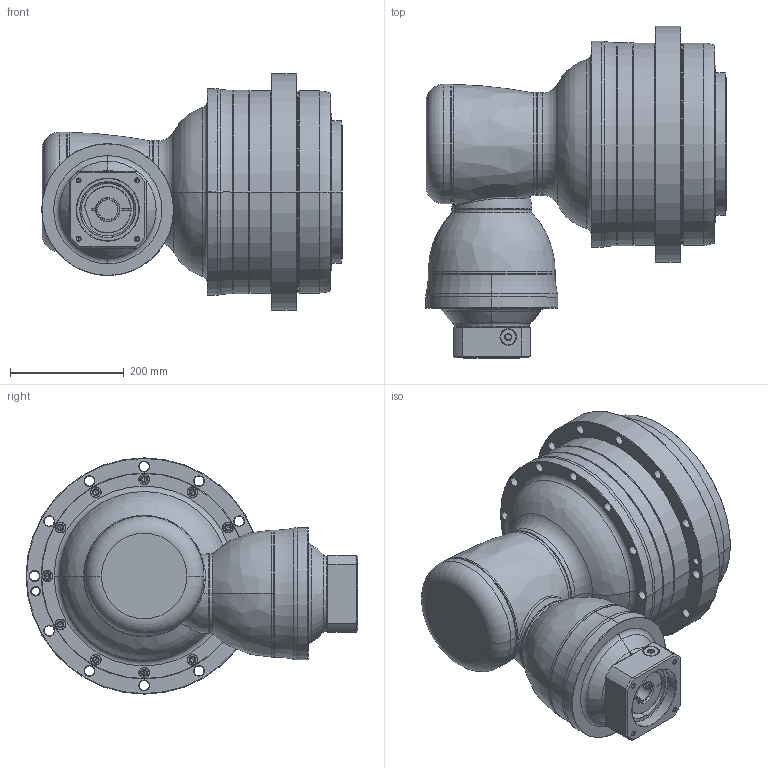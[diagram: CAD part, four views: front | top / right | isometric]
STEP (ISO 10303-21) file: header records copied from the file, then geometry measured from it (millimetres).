
FILE_DESCRIPTION((''),'2;1');
FILE_NAME('AHK355_4ST_35-P0409800101_ASM','2016-12-08T',('d01943'),(''),'PRO/ENGINEER BY PARAMETRIC TECHNOLOGY CORPORATION, 2008410','PRO/ENGINEER BY PARAMETRIC TECHNOLOGY CORPORATION, 2008410','');
FILE_SCHEMA(('CONFIG_CONTROL_DESIGN'));
Length unit declared in the file: millimetre
Products named in the file (12): P1008600002; P1821100001; P0276100003; P0357100003; P1315600001; P1007600001; P1317600301; P0409800101; P0503800012; P0912503201; 21711422019; AHK355_4ST_35-P0409800101_ASM
Assembly tree (11 placements, depth 2):
  AHK355_4ST_35-P0409800101_ASM
    P1008600002
    P1821100001
    P0276100003
    P0357100003
    P1315600001
    P1007600001
    P1317600301
    P0409800101
    P0503800012
    P0912503201
    21711422019
Bounding box: 528 x 583 x 415 mm (x, y, z)
Volume: 36963505.1 mm3; surface area: 1798776.8 mm2
Topology: 12 solids, 12 shells, 1026 faces, 2295 edges, 1315 vertices
Faces by surface type: cone 368, cylinder 368, torus 126, plane 125, bspline 37, sphere 2
Entity records: 34630 total; most frequent: CARTESIAN_POINT 11285, DIRECTION 5380, ORIENTED_EDGE 4414, AXIS2_PLACEMENT_3D 2289, EDGE_CURVE 2207, VERTEX_POINT 1315, CIRCLE 1277, EDGE_LOOP 1236
